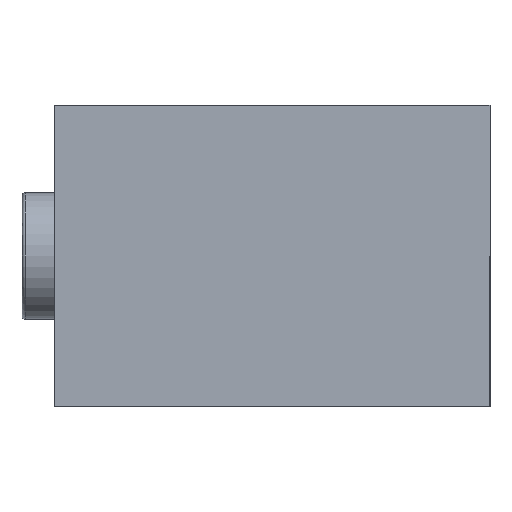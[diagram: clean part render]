
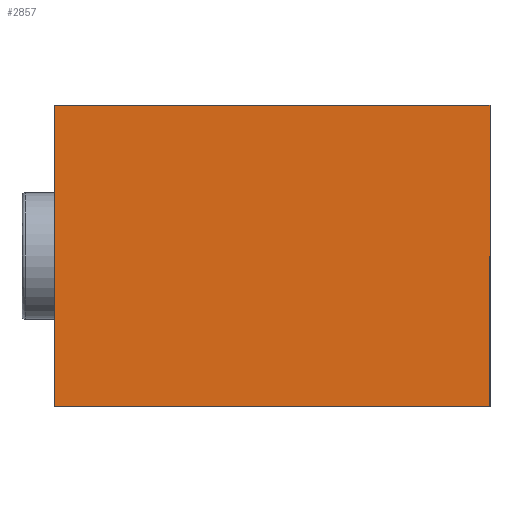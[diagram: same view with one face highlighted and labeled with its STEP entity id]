
A CAD part, front view. The second image highlights one B-rep face of the part: STEP entity #2857.
In plain terms, the highlighted planar face has unit normal (0, -1, 0).
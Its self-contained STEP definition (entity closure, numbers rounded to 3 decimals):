
#29 = CARTESIAN_POINT ( 'NONE',  ( 32.5, 0., 22.5 ) ) ;
#158 = ORIENTED_EDGE ( 'NONE', *, *, #1949, .F. ) ;
#244 = DIRECTION ( 'NONE',  ( -1., 0., 0. ) ) ;
#317 = FACE_OUTER_BOUND ( 'NONE', #2132, .T. ) ;
#368 = CARTESIAN_POINT ( 'NONE',  ( 0., 0., 0. ) ) ;
#386 = VERTEX_POINT ( 'NONE', #2149 ) ;
#467 = AXIS2_PLACEMENT_3D ( 'NONE', #368, #1807, #3049 ) ;
#555 = DIRECTION ( 'NONE',  ( 0., 0., -1. ) ) ;
#646 = VECTOR ( 'NONE', #1822, 1000. ) ;
#709 = VECTOR ( 'NONE', #244, 1000. ) ;
#827 = CARTESIAN_POINT ( 'NONE',  ( 32.5, 0., -22.5 ) ) ;
#829 = PLANE ( 'NONE',  #467 ) ;
#962 = EDGE_CURVE ( 'NONE', #386, #1848, #1543, .T. ) ;
#1000 = ORIENTED_EDGE ( 'NONE', *, *, #962, .F. ) ;
#1018 = LINE ( 'NONE', #1271, #2336 ) ;
#1271 = CARTESIAN_POINT ( 'NONE',  ( 32.5, 0., -22.5 ) ) ;
#1306 = CARTESIAN_POINT ( 'NONE',  ( -32.5, 0., -22.5 ) ) ;
#1452 = DIRECTION ( 'NONE',  ( 0., 0., 1. ) ) ;
#1472 = CARTESIAN_POINT ( 'NONE',  ( -32.5, 0., -22.5 ) ) ;
#1543 = LINE ( 'NONE', #3057, #646 ) ;
#1605 = EDGE_CURVE ( 'NONE', #2099, #386, #1779, .T. ) ;
#1612 = ORIENTED_EDGE ( 'NONE', *, *, #1605, .F. ) ;
#1660 = VECTOR ( 'NONE', #1452, 1000. ) ;
#1779 = LINE ( 'NONE', #2350, #1660 ) ;
#1796 = LINE ( 'NONE', #1472, #709 ) ;
#1807 = DIRECTION ( 'NONE',  ( 0., 1., 0. ) ) ;
#1822 = DIRECTION ( 'NONE',  ( 1., 0., 0. ) ) ;
#1848 = VERTEX_POINT ( 'NONE', #29 ) ;
#1949 = EDGE_CURVE ( 'NONE', #2093, #2099, #1796, .T. ) ;
#2093 = VERTEX_POINT ( 'NONE', #827 ) ;
#2099 = VERTEX_POINT ( 'NONE', #1306 ) ;
#2132 = EDGE_LOOP ( 'NONE', ( #3103, #1000, #1612, #158 ) ) ;
#2149 = CARTESIAN_POINT ( 'NONE',  ( -32.5, 0., 22.5 ) ) ;
#2173 = EDGE_CURVE ( 'NONE', #1848, #2093, #1018, .T. ) ;
#2336 = VECTOR ( 'NONE', #555, 1000. ) ;
#2350 = CARTESIAN_POINT ( 'NONE',  ( -32.5, 0., -22.5 ) ) ;
#2857 = ADVANCED_FACE ( 'NONE', ( #317 ), #829, .F. ) ;
#3049 = DIRECTION ( 'NONE',  ( 0., 0., 1. ) ) ;
#3057 = CARTESIAN_POINT ( 'NONE',  ( -32.5, 0., 22.5 ) ) ;
#3103 = ORIENTED_EDGE ( 'NONE', *, *, #2173, .F. ) ;
